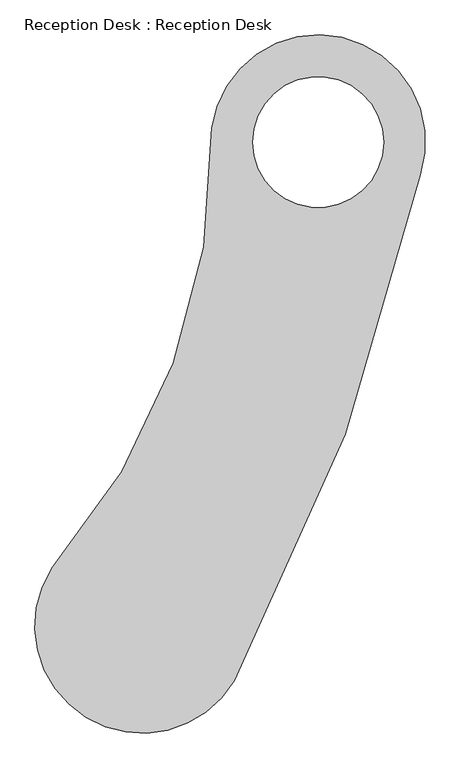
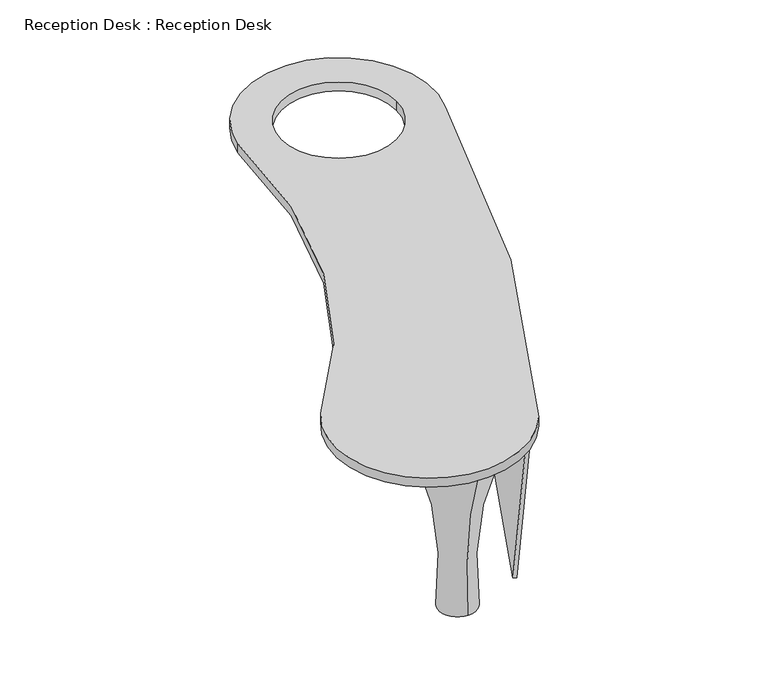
"""IFC4 building model written with IfcOpenShell, lengths in millimetres: furniture geometry, Reception Desk : Reception Desk."""

from ifc_helpers import new_model, si_unit, point, frame, frame_2d, origin, place, context, project, spatial, polyline, circle_curve, ellipse_curve, trimmed, segment, composite_curve, outline, extrude, source, transform, mapped, element, save
from ifc_brep_helpers import plane_surface, revolved_surface, advanced_brep


def reception_desk_reception_desk_450a947c(model_context):
    return source(origin(), model_context, "Body", "SolidModel", [
        advanced_brep(
        [(-10817.8796512, -1561.8218719, 46570.0), (-10817.8796512, -1161.8218719, 46570.0), (-10817.8796512, -1361.8218719, 46570.0), (-10817.8796512, -1461.8218719, 45720.0), (-10817.8796512, -1261.8218719, 45720.0), (-10817.8796512, -1361.8218719, 45720.0)],
        [
            (0, 1, circle_curve(frame((-10817.8796512, -1361.8218719, 46570.0), z_axis=(0.0, 0.0, 1.0), x_axis=(0.0, 1.0, 0.0)), 200.0)),
            (1, 2),
            (2, 0),
            (1, 0, circle_curve(frame((-10817.8796512, -1361.8218719, 46570.0), z_axis=(0.0, 0.0, 1.0), x_axis=(0.0, 1.0, 0.0)), 200.0)),
            (3, 4, circle_curve(frame((-10817.8796512, -1361.8218719, 45720.0), z_axis=(0.0, 0.0, 1.0), x_axis=(0.0, 1.0, 0.0)), 100.0)),
            (4, 1, circle_curve(frame((-10817.8796512, 524.5948172, 45940.7156836), z_axis=(-1.0, 0.0, 0.0), x_axis=(0.0, 1.0, 0.0)), 1800.0)),
            (0, 3, circle_curve(frame((-10817.8796512, -3248.238561, 45940.7156836), z_axis=(-1.0, 0.0, 0.0), x_axis=(0.0, -1.0, 0.0)), 1800.0)),
            (4, 3, circle_curve(frame((-10817.8796512, -1361.8218719, 45720.0), z_axis=(0.0, 0.0, 1.0), x_axis=(0.0, 1.0, 0.0)), 100.0)),
            (5, 4),
            (3, 5),
        ],
        [
            plane_surface(frame((-10817.8796512, -1361.8218719, 46570.0), z_axis=(0.0, 0.0, 1.0), x_axis=(0.0, 1.0, 0.0))),
            revolved_surface(trimmed(ellipse_curve(frame((-10817.8796512, 524.5948172, 45940.7156836), z_axis=(1.0, 0.0, 0.0), x_axis=(0.0, 1.0, 0.0)), 1800.0, 1800.0), [point((-10817.8796512, -1161.8218719, 46570.0))], [point((-10817.8796512, -1261.8218719, 45720.0))], True, "CARTESIAN"), (-10817.8796512, -1361.8218719, 45720.0), (0.0, 0.0, -1.0)),
            plane_surface(frame((-10817.8796512, -1361.8218719, 45720.0), z_axis=(0.0, 0.0, -1.0), x_axis=(0.0, 1.0, 0.0))),
        ],
        [
            (0, [[1, 2, 3]]),
            (0, [[4, -3, -2]]),
            (1, [[5, 6, -1, 7]]),
            (1, [[8, -7, -4, -6]]),
            (2, [[9, -5, 10]]),
            (2, [[-10, -8, -9]]),
        ],
    ),
        advanced_brep(
        [(-9551.7097741, 1004.6808714, 46570.0), (-9569.30587, 1008.4726269, 46570.0), (-10432.2409238, -1338.1794296, 46570.0), (-10416.3803398, -1346.6907088, 46570.0), (-9618.1839141, 1019.0052812, 45720.0), (-10476.2981017, -1314.5369872, 45720.0), (-10492.1586857, -1306.025708, 45720.0), (-9635.7800099, 1022.7970368, 45720.0)],
        [
            (0, 1),
            (1, 2, circle_curve(frame((-18318.4757611, 2893.8177457, 46570.0), z_axis=(0.0, 0.0, -1.0), x_axis=(0.9775608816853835, -0.21065308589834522, 0.0)), 8950.0)),
            (2, 3),
            (3, 0, circle_curve(frame((-18318.4757611, 2893.8177457, 46570.0), z_axis=(0.0, 0.0, 1.0), x_axis=(0.8811435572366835, -0.472848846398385, 0.0)), 8968.0)),
            (4, 5, circle_curve(frame((-18318.4757611, 2893.8177457, 45720.0), z_axis=(0.0, 0.0, -1.0), x_axis=(0.8811435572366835, -0.472848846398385, 0.0)), 8900.0)),
            (5, 6),
            (6, 7, circle_curve(frame((-18318.4757611, 2893.8177457, 45720.0), z_axis=(0.0, 0.0, 1.0), x_axis=(0.9775608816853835, -0.21065308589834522, 0.0)), 8882.0)),
            (7, 4),
            (7, 1),
            (0, 4),
            (6, 2),
            (5, 3),
        ],
        [
            plane_surface(frame((-9992.4092269, -167.92916, 46570.0), z_axis=(0.0, 0.0, 1.0), x_axis=(-0.21065308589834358, -0.9775608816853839, 0.0))),
            plane_surface(frame((-10055.6051778, -144.6900943, 45720.0), z_axis=(0.0, 0.0, -1.0), x_axis=(-0.21065308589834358, -0.9775608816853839, 0.0))),
            plane_surface(frame((-9626.981962, 1020.901159, 45720.0), z_axis=(0.21065308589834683, 0.9775608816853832, 0.0), x_axis=(-0.9775608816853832, 0.21065308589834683, 0.0))),
            revolved_surface(polyline([(-10432.2409238, -1338.1794295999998, 46570.0), (-10492.158685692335, -1306.0257080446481, 45720.0)]), (-18318.4757611, 2893.8177457, -65305.0), (0.0, 0.0, 1.0)),
            plane_surface(frame((-10484.2283937, -1310.2813476, 45720.0), z_axis=(-0.472848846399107, -0.8811435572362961, 0.0), x_axis=(0.8811435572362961, -0.472848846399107, 0.0))),
            revolved_surface(polyline([(-9618.183914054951, 1019.0052812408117, 45720.0), (-9551.7097741, 1004.6808713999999, 46570.0)]), (-18318.4757611, 2893.8177457, -65530.0), (0.0, 0.0, 1.0)),
        ],
        [
            (0, [[1, 2, 3, 4]]),
            (1, [[5, 6, 7, 8]]),
            (2, [[-8, 9, -1, 10]]),
            (3, [[-7, 11, -2, -9]]),
            (4, [[-6, 12, -3, -11]]),
            (5, [[-5, -10, -4, -12]]),
        ],
    ),
        extrude(outline(composite_curve([segment(trimmed(circle_curve(frame_2d((-13491.7729561, 1144.0678413)), 3000.0), [point((-11240.1193807, -838.3690873))], [point((-10492.6203521, 1215.3676148))], True, "CARTESIAN"), True, "CONTINUOUS"), segment(trimmed(circle_curve(frame_2d((-9997.0313072, 1149.0992317)), 500.0), [point((-10492.6203521, 1215.3676148))], [point((-9520.4278259, 997.9399726))], False, "CARTESIAN"), True, "CONTINUOUS"), segment(trimmed(circle_curve(frame_2d((-18318.4757611, 2893.8177457)), 9000.0), [point((-9520.4278259, 997.9399726))], [point((-10388.1837459, -1361.8218719))], False, "CARTESIAN"), True, "CONTINUOUS"), segment(trimmed(circle_curve(frame_2d((-10817.8796512, -1106.1630582)), 500.0), [point((-10388.1837459, -1361.8218719))], [point((-11240.1193807, -838.3690873))], False, "CARTESIAN"), True, "CONTINUOUS")], self_intersect=False), holes=[composite_curve([segment(trimmed(circle_curve(frame_2d((-9997.0313072, 1149.0992317)), 305.0), [point((-10302.0313072, 1149.0992317))], [point((-9692.0313072, 1149.0992317))], True, "CARTESIAN"), True, "CONTINUOUS"), segment(trimmed(circle_curve(frame_2d((-9997.0313072, 1149.0992317)), 305.0), [point((-9692.0313072, 1149.0992317))], [point((-10302.0313072, 1149.0992317))], True, "CARTESIAN"), True, "CONTINUOUS")], self_intersect=False)]), frame((0.0, 0.0, 46570.0), z_axis=(0.0, 0.0, 1.0), x_axis=(1.0, 0.0, 0.0)), (0.0, 0.0, 1.0), 50.0),
    ])


if __name__ == "__main__":
    model = new_model("IFC4")
    model_context = context("Model", 3, world=origin())
    ifc_project = project(units=[si_unit("LENGTHUNIT", "METRE", prefix="MILLI")], contexts=[model_context])
    site = spatial("IfcSite", under=ifc_project)
    building = spatial("IfcBuilding", under=site)
    placement = place(None, origin())
    reception_desk_reception_desk_shape = reception_desk_reception_desk_450a947c(model_context)
    element("IfcFurniture", 1, ObjectType="Reception Desk : Reception Desk", at=placement, inside=building, context=model_context, shape_type="MappedRepresentation", body=[
        mapped(reception_desk_reception_desk_shape, transform((0.0, 0.0, 0.0), x_axis=(1.0, 0.0, 0.0), y_axis=(0.0, 1.0, 0.0), z_axis=(0.0, 0.0, 1.0))),
    ])
    save(model, "model.ifc")
